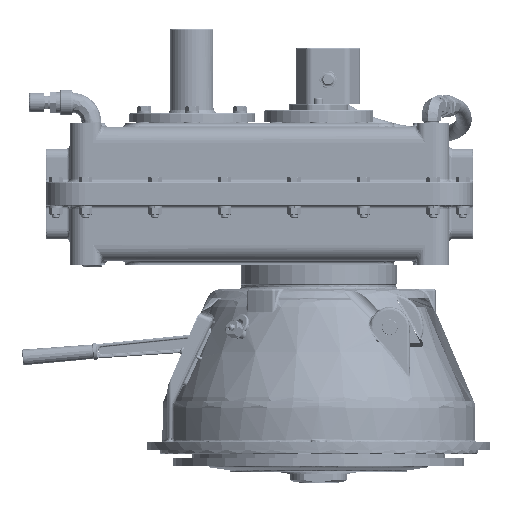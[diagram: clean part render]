
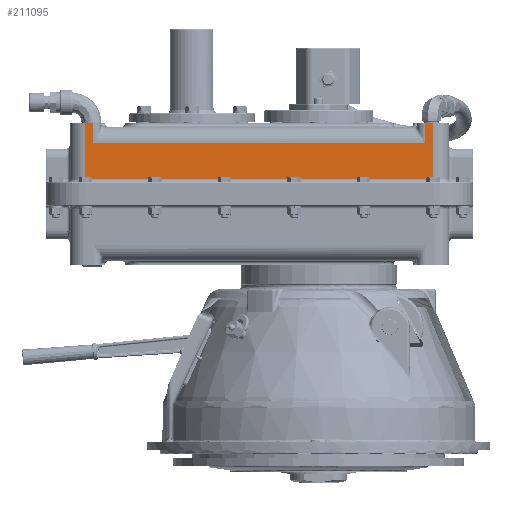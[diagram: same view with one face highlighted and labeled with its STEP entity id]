
A CAD part, left-side view. The second image highlights one B-rep face of the part: STEP entity #211095.
In plain terms, the highlighted planar face has unit normal (-1, 0, 0) as drawn and (1, 0, 0) by its records, which use the part's own axes.
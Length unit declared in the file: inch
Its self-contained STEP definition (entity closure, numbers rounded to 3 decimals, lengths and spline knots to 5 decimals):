
#11208 = DIRECTION ( 'NONE',  ( 0., 0., -1. ) ) ;
#13689 = ORIENTED_EDGE ( 'NONE', *, *, #65839, .T. ) ;
#14544 = CARTESIAN_POINT ( 'NONE',  ( 7., 14.5, -4.5 ) ) ;
#16090 = DIRECTION ( 'NONE',  ( 0., 0., -1. ) ) ;
#21784 = VECTOR ( 'NONE', #28691, 39.37008 ) ;
#26249 = LINE ( 'NONE', #105268, #229914 ) ;
#28691 = DIRECTION ( 'NONE',  ( 0., 1., 0. ) ) ;
#34073 = PLANE ( 'NONE',  #338197 ) ;
#46547 = CARTESIAN_POINT ( 'NONE',  ( 7., 14.5, -4.25 ) ) ;
#49982 = CARTESIAN_POINT ( 'NONE',  ( 7., 14.5, -4.5 ) ) ;
#53568 = VECTOR ( 'NONE', #243042, 39.37008 ) ;
#63402 = VERTEX_POINT ( 'NONE', #314085 ) ;
#65839 = EDGE_CURVE ( 'NONE', #208025, #104994, #321567, .T. ) ;
#69289 = EDGE_LOOP ( 'NONE', ( #278939, #244763, #233015, #283951, #249971, #141507, #13689, #185890 ) ) ;
#76003 = LINE ( 'NONE', #329333, #341918 ) ;
#76909 = LINE ( 'NONE', #147176, #155917 ) ;
#87407 = EDGE_CURVE ( 'NONE', #250301, #311626, #170978, .T. ) ;
#95117 = EDGE_CURVE ( 'NONE', #99408, #335903, #335341, .T. ) ;
#99091 = DIRECTION ( 'NONE',  ( 1., 0., 0. ) ) ;
#99408 = VERTEX_POINT ( 'NONE', #14544 ) ;
#100407 = EDGE_CURVE ( 'NONE', #335903, #188116, #26249, .T. ) ;
#104994 = VERTEX_POINT ( 'NONE', #109025 ) ;
#105268 = CARTESIAN_POINT ( 'NONE',  ( 7., 14.5, -0.93 ) ) ;
#109025 = CARTESIAN_POINT ( 'NONE',  ( 7., 14., -4.5 ) ) ;
#109441 = CARTESIAN_POINT ( 'NONE',  ( 7., 15.55743, -3.25 ) ) ;
#110719 = CARTESIAN_POINT ( 'NONE',  ( 7., -7.5, -0.93 ) ) ;
#121801 = CARTESIAN_POINT ( 'NONE',  ( 7., 14., -4.25 ) ) ;
#141507 = ORIENTED_EDGE ( 'NONE', *, *, #239622, .F. ) ;
#147176 = CARTESIAN_POINT ( 'NONE',  ( 7., -7., -4.25 ) ) ;
#155917 = VECTOR ( 'NONE', #306109, 39.37008 ) ;
#161075 = CARTESIAN_POINT ( 'NONE',  ( 7., 14.5, -4.5 ) ) ;
#170978 = LINE ( 'NONE', #49982, #241700 ) ;
#183447 = DIRECTION ( 'NONE',  ( 0., 1., 0. ) ) ;
#183485 = CARTESIAN_POINT ( 'NONE',  ( 7., 14., -3.25 ) ) ;
#185890 = ORIENTED_EDGE ( 'NONE', *, *, #252473, .T. ) ;
#187324 = CARTESIAN_POINT ( 'NONE',  ( 7., -7., -4.5 ) ) ;
#187568 = CARTESIAN_POINT ( 'NONE',  ( 7., 14.5, -0.93 ) ) ;
#188116 = VERTEX_POINT ( 'NONE', #110719 ) ;
#188636 = VECTOR ( 'NONE', #16090, 39.37008 ) ;
#191587 = FACE_OUTER_BOUND ( 'NONE', #69289, .T. ) ;
#193992 = VECTOR ( 'NONE', #232399, 39.37008 ) ;
#208025 = VERTEX_POINT ( 'NONE', #183485 ) ;
#211095 = ADVANCED_FACE ( 'NONE', ( #191587 ), #34073, .T. ) ;
#229914 = VECTOR ( 'NONE', #290998, 39.37008 ) ;
#232399 = DIRECTION ( 'NONE',  ( 0., 0., 1. ) ) ;
#233015 = ORIENTED_EDGE ( 'NONE', *, *, #243789, .T. ) ;
#233786 = LINE ( 'NONE', #161075, #21784 ) ;
#239622 = EDGE_CURVE ( 'NONE', #208025, #63402, #336150, .T. ) ;
#241700 = VECTOR ( 'NONE', #183447, 39.37008 ) ;
#243042 = DIRECTION ( 'NONE',  ( 0., -1., 0. ) ) ;
#243789 = EDGE_CURVE ( 'NONE', #188116, #250301, #76003, .T. ) ;
#244763 = ORIENTED_EDGE ( 'NONE', *, *, #100407, .T. ) ;
#249971 = ORIENTED_EDGE ( 'NONE', *, *, #303225, .T. ) ;
#250301 = VERTEX_POINT ( 'NONE', #271787 ) ;
#252473 = EDGE_CURVE ( 'NONE', #104994, #99408, #233786, .T. ) ;
#258221 = CARTESIAN_POINT ( 'NONE',  ( 7., 14.5, -4.25 ) ) ;
#271787 = CARTESIAN_POINT ( 'NONE',  ( 7., -7.5, -4.5 ) ) ;
#278939 = ORIENTED_EDGE ( 'NONE', *, *, #95117, .T. ) ;
#283951 = ORIENTED_EDGE ( 'NONE', *, *, #87407, .T. ) ;
#284854 = DIRECTION ( 'NONE',  ( 0., 0., -1. ) ) ;
#290998 = DIRECTION ( 'NONE',  ( 0., -1., 0. ) ) ;
#303225 = EDGE_CURVE ( 'NONE', #311626, #63402, #76909, .T. ) ;
#306109 = DIRECTION ( 'NONE',  ( 0., 0., 1. ) ) ;
#311626 = VERTEX_POINT ( 'NONE', #187324 ) ;
#314085 = CARTESIAN_POINT ( 'NONE',  ( 7., -7., -3.25 ) ) ;
#321567 = LINE ( 'NONE', #121801, #188636 ) ;
#329333 = CARTESIAN_POINT ( 'NONE',  ( 7., -7.5, -4.25 ) ) ;
#335341 = LINE ( 'NONE', #46547, #193992 ) ;
#335903 = VERTEX_POINT ( 'NONE', #187568 ) ;
#336150 = LINE ( 'NONE', #109441, #53568 ) ;
#338197 = AXIS2_PLACEMENT_3D ( 'NONE', #258221, #99091, #284854 ) ;
#341918 = VECTOR ( 'NONE', #11208, 39.37008 ) ;
